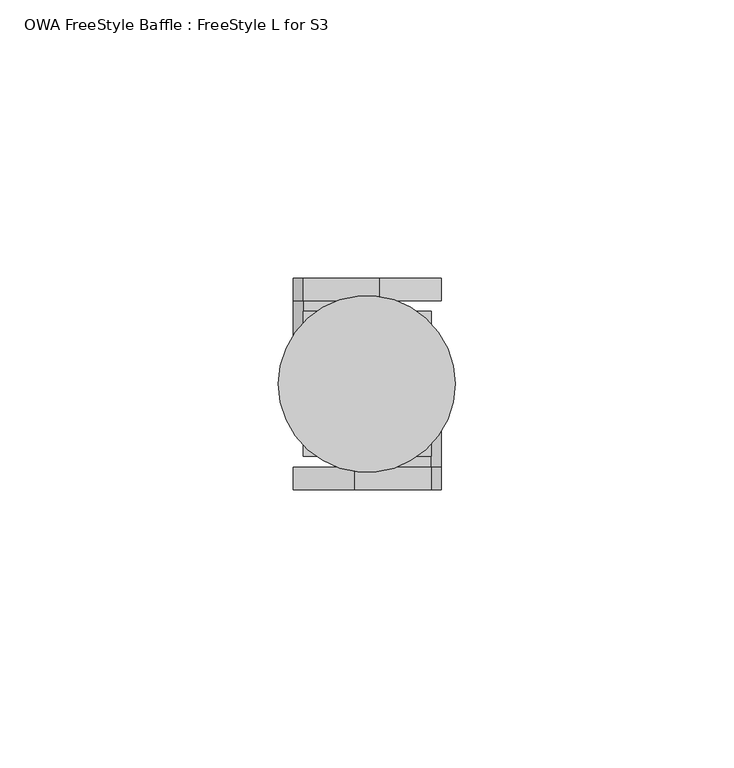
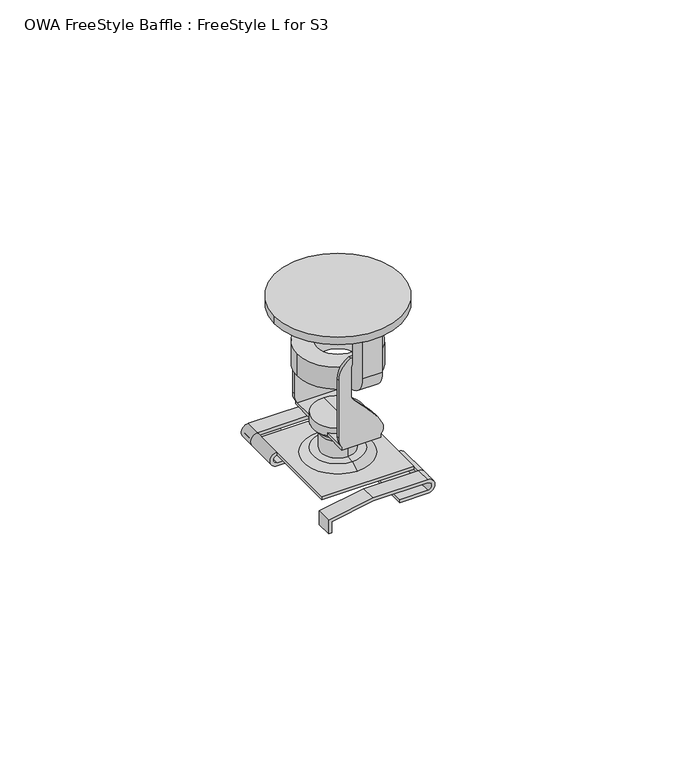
"""IFC4 building model written with IfcOpenShell, lengths in millimetres: proxy geometry, OWA FreeStyle Baffle : FreeStyle L for S3."""

from ifc_helpers import new_model, si_unit, point, frame, frame_2d, origin, place, context, project, spatial, polyline, circle_curve, trimmed, segment, composite_curve, outline, extrude, source, transform, mapped, element, save
from ifc_brep_helpers import plane_surface, cylinder_surface, revolved_surface, advanced_brep


def owa_freestyle_baffle_freestyle_l_for_s3_43a2b04f(model_context):
    return source(origin(), model_context, "Body", "SolidModel", [
        advanced_brep(
        [(-751.5, 10.0577889, 28.4358156), (-748.5937425, 10.0577889, 33.2858156), (-743.5, 10.0577889, 33.2858156), (-743.5, 10.0577889, 27.4015303), (-743.5, 10.0577889, 31.007432), (-748.5, 10.0577889, 31.007432), (-748.5, 10.0577889, 23.6176887), (-747.77757, 10.0577889, 21.8597795), (-743.5468103, 10.0577889, 17.5817021), (-740.5677822, 10.0577889, 13.1149322), (-741.0563894, 10.0577889, 10.5898642), (-741.0563894, 10.0577889, 9.7898642), (-750.768039, 10.0577889, 9.7898642), (-750.768039, 10.0577889, 10.5898642), (-751.5, 10.0577889, 13.1149322), (-751.5, 9.2577889, 28.4358156), (-751.5, 9.2577889, 13.1149322), (-750.768039, 9.2577889, 10.5898642), (-741.0563894, 9.2577889, 10.5898642), (-740.5677822, 9.2577889, 13.1149322), (-743.5468103, 9.2577889, 17.5817021), (-747.77757, 9.2577889, 21.8597795), (-748.5, 9.2577889, 23.6176887), (-748.5, 9.2577889, 31.007432), (-743.5, 9.2577889, 31.007432), (-743.5, 9.2577889, 27.4015303), (-743.5, 9.2577889, 33.2858156), (-748.5937425, 9.2577889, 33.2858156), (-750.768039, 3.9188497, 10.5898642), (-746.0, 6.1718376, 10.5898642), (-741.0563894, 3.6949009, 10.5898642), (-750.768039, -9.2577889, 10.5898642), (-741.0563894, -9.2577889, 10.5898642), (-741.0563894, -3.6949009, 10.5898642), (-746.0, -6.1718376, 10.5898642), (-750.768039, -3.9188497, 10.5898642), (-741.0563894, -10.0577889, 9.7898642), (-750.768039, -10.0577889, 9.7898642), (-750.768039, -3.9188497, 9.7898642), (-750.768039, 3.9188497, 9.7898642), (-741.0563894, 3.6949009, 9.7898642), (-741.0563894, -3.6949009, 9.7898642), (-746.0, -5.0073658, 9.7898642), (-746.0, 5.0073658, 9.7898642), (-741.0563894, -10.0577889, 10.5898642), (-750.768039, -10.0577889, 10.5898642), (-740.5677822, -10.0577889, 13.1149322), (-743.5468103, -10.0577889, 17.5817021), (-747.77757, -10.0577889, 21.8597795), (-748.5, -10.0577889, 23.6176887), (-748.5, -10.0577889, 31.007432), (-743.5, -10.0577889, 31.007432), (-743.5, -10.0577889, 27.4015303), (-743.5, -10.0577889, 33.2858156), (-748.5937425, -10.0577889, 33.2858156), (-751.5, -10.0577889, 28.4358156), (-751.5, -10.0577889, 13.1149322), (-751.5, -9.2577889, 28.4358156), (-748.5937425, -9.2577889, 33.2858156), (-743.5, -9.2577889, 33.2858156), (-743.5, -9.2577889, 27.4015303), (-743.5, -9.2577889, 31.007432), (-748.5, -9.2577889, 31.007432), (-748.5, -9.2577889, 23.6176887), (-747.77757, -9.2577889, 21.8597795), (-743.5468103, -9.2577889, 17.5817021), (-740.5677822, -9.2577889, 13.1149322), (-751.5, -9.2577889, 13.1149322), (-746.0, 0.0, 1.5898642), (-746.0, -8.4415003, 1.5898642), (-746.0, 8.4415003, 1.5898642), (-746.0, -6.3209107, 2.7955065), (-746.0, 6.3209107, 2.7955065), (-746.0, -4.2468376, 2.7955065), (-746.0, 4.2468376, 2.7955065), (-746.0, -4.2468376, 7.2398642), (-746.0, 4.2468376, 7.2398642), (-746.0, -5.0073658, 8.5775481), (-746.0, 5.0073658, 8.5775481), (-746.0, -6.1718376, 12.0898642), (-746.0, 6.1718376, 12.0898642), (-746.0, 0.0, 12.0898642)],
        [
            (0, 1, circle_curve(frame((-746.0, 10.0577889, 28.4358156), z_axis=(0.0, 1.0, 0.0), x_axis=(0.0, 0.0, 1.0)), 5.5)),
            (1, 2),
            (2, 3, circle_curve(frame((-744.5205733, 10.0577889, 30.343673), z_axis=(0.0, 1.0, 0.0), x_axis=(0.0, 0.0, 1.0)), 3.1141248)),
            (3, 4),
            (4, 5),
            (5, 6),
            (6, 7, circle_curve(frame((-746.0, 10.0577889, 23.6176887), z_axis=(0.0, -1.0, 0.0), x_axis=(0.0, 0.0, 1.0)), 2.5)),
            (7, 8),
            (8, 9, circle_curve(frame((-753.5676337, 10.0577889, 7.6717141), z_axis=(0.0, 1.0, 0.0), x_axis=(0.0, 0.0, 1.0)), 14.0934298)),
            (9, 10, circle_curve(frame((-742.7072336, 10.0577889, 12.2191142), z_axis=(0.0, 1.0, 0.0), x_axis=(0.0, 0.0, 1.0)), 2.3194271)),
            (10, 11),
            (11, 12),
            (12, 13),
            (13, 14, circle_curve(frame((-746.778618, 10.0577889, 13.1149322), z_axis=(0.0, 1.0, 0.0), x_axis=(0.0, 0.0, 1.0)), 4.721382)),
            (14, 0),
            (15, 16),
            (16, 17, circle_curve(frame((-746.778618, 9.2577889, 13.1149322), z_axis=(0.0, -1.0, 0.0), x_axis=(0.0, 0.0, 1.0)), 4.721382)),
            (17, 18),
            (18, 19, circle_curve(frame((-742.7072336, 9.2577889, 12.2191142), z_axis=(0.0, -1.0, 0.0), x_axis=(0.0, 0.0, 1.0)), 2.3194271)),
            (19, 20, circle_curve(frame((-753.5676337, 9.2577889, 7.6717141), z_axis=(0.0, -1.0, 0.0), x_axis=(0.0, 0.0, 1.0)), 14.0934298)),
            (20, 21),
            (21, 22, circle_curve(frame((-746.0, 9.2577889, 23.6176887), z_axis=(0.0, 1.0, 0.0), x_axis=(0.0, 0.0, 1.0)), 2.5)),
            (22, 23),
            (23, 24),
            (24, 25),
            (25, 26, circle_curve(frame((-744.5205733, 9.2577889, 30.343673), z_axis=(0.0, -1.0, 0.0), x_axis=(0.0, 0.0, 1.0)), 3.1141248)),
            (26, 27),
            (27, 15, circle_curve(frame((-746.0, 9.2577889, 28.4358156), z_axis=(0.0, -1.0, 0.0), x_axis=(0.0, 0.0, 1.0)), 5.5)),
            (0, 15),
            (27, 1),
            (26, 2),
            (25, 3),
            (24, 4),
            (23, 5),
            (7, 21),
            (20, 8),
            (19, 9),
            (18, 10),
            (13, 17),
            (16, 14),
            (6, 22),
            (17, 28),
            (28, 29, circle_curve(frame((-746.0, 0.0, 10.5898642), z_axis=(0.0, 0.0, -1.0), x_axis=(0.0, -1.0, 0.0)), 6.1718376)),
            (29, 30, circle_curve(frame((-746.0, 0.0, 10.5898642), z_axis=(0.0, 0.0, -1.0), x_axis=(0.0, -1.0, 0.0)), 6.1718376)),
            (30, 18),
            (31, 32),
            (32, 33),
            (33, 34, circle_curve(frame((-746.0, 0.0, 10.5898642), z_axis=(0.0, 0.0, -1.0), x_axis=(0.0, -1.0, 0.0)), 6.1718376)),
            (34, 35, circle_curve(frame((-746.0, 0.0, 10.5898642), z_axis=(0.0, 0.0, -1.0), x_axis=(0.0, -1.0, 0.0)), 6.1718376)),
            (35, 31),
            (36, 37),
            (37, 38),
            (38, 39, circle_curve(frame((-746.0, 0.0, 9.7898642), z_axis=(0.0, 0.0, -1.0), x_axis=(0.0, -1.0, 0.0)), 6.1718376)),
            (39, 12),
            (11, 40),
            (40, 41, circle_curve(frame((-746.0, 0.0, 9.7898642), z_axis=(0.0, 0.0, -1.0), x_axis=(0.0, -1.0, 0.0)), 6.1718376)),
            (41, 36),
            (42, 43, circle_curve(frame((-746.0, 0.0, 9.7898642), z_axis=(0.0, 0.0, 1.0), x_axis=(0.0, -1.0, 0.0)), 5.0073658)),
            (43, 42, circle_curve(frame((-746.0, 0.0, 9.7898642), z_axis=(0.0, 0.0, 1.0), x_axis=(0.0, -1.0, 0.0)), 5.0073658)),
            (30, 40),
            (44, 36),
            (41, 33),
            (32, 44),
            (39, 28),
            (37, 45),
            (45, 31),
            (35, 38),
            (44, 46, circle_curve(frame((-742.7072336, -10.0577889, 12.2191142), z_axis=(0.0, -1.0, 0.0), x_axis=(0.0, 0.0, 1.0)), 2.3194271)),
            (46, 47, circle_curve(frame((-753.5676337, -10.0577889, 7.6717141), z_axis=(0.0, -1.0, 0.0), x_axis=(0.0, 0.0, 1.0)), 14.0934298)),
            (47, 48),
            (48, 49, circle_curve(frame((-746.0, -10.0577889, 23.6176887), z_axis=(0.0, 1.0, 0.0), x_axis=(0.0, 0.0, 1.0)), 2.5)),
            (49, 50),
            (50, 51),
            (51, 52),
            (52, 53, circle_curve(frame((-744.5205733, -10.0577889, 30.343673), z_axis=(0.0, -1.0, 0.0), x_axis=(0.0, 0.0, 1.0)), 3.1141248)),
            (53, 54),
            (54, 55, circle_curve(frame((-746.0, -10.0577889, 28.4358156), z_axis=(0.0, -1.0, 0.0), x_axis=(0.0, 0.0, 1.0)), 5.5)),
            (55, 56),
            (56, 45, circle_curve(frame((-746.778618, -10.0577889, 13.1149322), z_axis=(0.0, -1.0, 0.0), x_axis=(0.0, 0.0, 1.0)), 4.721382)),
            (57, 58, circle_curve(frame((-746.0, -9.2577889, 28.4358156), z_axis=(0.0, 1.0, 0.0), x_axis=(0.0, 0.0, 1.0)), 5.5)),
            (58, 59),
            (59, 60, circle_curve(frame((-744.5205733, -9.2577889, 30.343673), z_axis=(0.0, 1.0, 0.0), x_axis=(0.0, 0.0, 1.0)), 3.1141248)),
            (60, 61),
            (61, 62),
            (62, 63),
            (63, 64, circle_curve(frame((-746.0, -9.2577889, 23.6176887), z_axis=(0.0, -1.0, 0.0), x_axis=(0.0, 0.0, 1.0)), 2.5)),
            (64, 65),
            (65, 66, circle_curve(frame((-753.5676337, -9.2577889, 7.6717141), z_axis=(0.0, 1.0, 0.0), x_axis=(0.0, 0.0, 1.0)), 14.0934298)),
            (66, 32, circle_curve(frame((-742.7072336, -9.2577889, 12.2191142), z_axis=(0.0, 1.0, 0.0), x_axis=(0.0, 0.0, 1.0)), 2.3194271)),
            (31, 67, circle_curve(frame((-746.778618, -9.2577889, 13.1149322), z_axis=(0.0, 1.0, 0.0), x_axis=(0.0, 0.0, 1.0)), 4.721382)),
            (67, 57),
            (54, 58),
            (57, 55),
            (53, 59),
            (52, 60),
            (51, 61),
            (50, 62),
            (47, 65),
            (64, 48),
            (46, 66),
            (56, 67),
            (63, 49),
            (68, 69),
            (69, 70, circle_curve(frame((-746.0, 0.0, 1.5898642), z_axis=(0.0, 0.0, -1.0), x_axis=(0.0, -1.0, 0.0)), 8.4415003)),
            (70, 68),
            (70, 69, circle_curve(frame((-746.0, 0.0, 1.5898642), z_axis=(0.0, 0.0, -1.0), x_axis=(0.0, -1.0, 0.0)), 8.4415003)),
            (69, 71),
            (71, 72, circle_curve(frame((-746.0, 0.0, 2.7955065), z_axis=(0.0, 0.0, -1.0), x_axis=(0.0, -1.0, 0.0)), 6.3209107)),
            (72, 70),
            (72, 71, circle_curve(frame((-746.0, 0.0, 2.7955065), z_axis=(0.0, 0.0, -1.0), x_axis=(0.0, -1.0, 0.0)), 6.3209107)),
            (71, 73),
            (73, 74, circle_curve(frame((-746.0, 0.0, 2.7955065), z_axis=(0.0, 0.0, -1.0), x_axis=(0.0, -1.0, 0.0)), 4.2468376)),
            (74, 72),
            (74, 73, circle_curve(frame((-746.0, 0.0, 2.7955065), z_axis=(0.0, 0.0, -1.0), x_axis=(0.0, -1.0, 0.0)), 4.2468376)),
            (73, 75),
            (75, 76, circle_curve(frame((-746.0, 0.0, 7.2398642), z_axis=(0.0, 0.0, -1.0), x_axis=(0.0, -1.0, 0.0)), 4.2468376)),
            (76, 74),
            (76, 75, circle_curve(frame((-746.0, 0.0, 7.2398642), z_axis=(0.0, 0.0, -1.0), x_axis=(0.0, -1.0, 0.0)), 4.2468376)),
            (75, 77),
            (77, 78, circle_curve(frame((-746.0, 0.0, 8.5775481), z_axis=(0.0, 0.0, -1.0), x_axis=(0.0, -1.0, 0.0)), 5.0073658)),
            (78, 76),
            (78, 77, circle_curve(frame((-746.0, 0.0, 8.5775481), z_axis=(0.0, 0.0, -1.0), x_axis=(0.0, -1.0, 0.0)), 5.0073658)),
            (77, 42),
            (43, 78),
            (79, 80, circle_curve(frame((-746.0, 0.0, 12.0898642), z_axis=(0.0, 0.0, -1.0), x_axis=(0.0, -1.0, 0.0)), 6.1718376)),
            (80, 29),
            (34, 79),
            (80, 79, circle_curve(frame((-746.0, 0.0, 12.0898642), z_axis=(0.0, 0.0, -1.0), x_axis=(0.0, -1.0, 0.0)), 6.1718376)),
            (79, 81),
            (81, 80),
        ],
        [
            plane_surface(frame((-751.5, 10.0577889, 13.1149322), z_axis=(0.0, 1.0, 0.0), x_axis=(0.0, 0.0, 1.0))),
            plane_surface(frame((-751.5, 9.2577889, 13.1149322), z_axis=(0.0, -1.0, 0.0), x_axis=(0.0, 0.0, -1.0))),
            cylinder_surface(frame((-746.0, 10.0577889, 28.4358156), z_axis=(0.0, -1.0, 0.0), x_axis=(0.0, 0.0, 1.0)), 5.5),
            plane_surface(frame((-743.5, 9.2577889, 33.2858156), z_axis=(0.0, 0.0, 1.0), x_axis=(0.0, 1.0, 0.0))),
            cylinder_surface(frame((-744.5205733, 10.0577889, 30.343673), z_axis=(0.0, -1.0, 0.0), x_axis=(0.0, 0.0, 1.0)), 3.1141248),
            plane_surface(frame((-743.5, 9.2577889, 31.007432), z_axis=(-1.0, 0.0, 0.0), x_axis=(0.0, 1.0, 0.0))),
            plane_surface(frame((-748.5, 9.2577889, 31.007432), z_axis=(0.0, 0.0, -1.0), x_axis=(0.0, 1.0, 0.0))),
            plane_surface(frame((-743.5468103, 9.2577889, 17.5817021), z_axis=(0.7110280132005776, 0.0, 0.7031636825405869), x_axis=(0.0, 1.0, 0.0))),
            cylinder_surface(frame((-753.5676337, 10.0577889, 7.6717141), z_axis=(0.0, -1.0, 0.0), x_axis=(0.0, 0.0, 1.0)), 14.0934298),
            cylinder_surface(frame((-742.7072336, 10.0577889, 12.2191142), z_axis=(0.0, -1.0, 0.0), x_axis=(0.0, 0.0, 1.0)), 2.3194271),
            cylinder_surface(frame((-746.778618, 10.0577889, 13.1149322), z_axis=(0.0, -1.0, 0.0), x_axis=(0.0, 0.0, 1.0)), 4.721382),
            plane_surface(frame((-751.5, 9.2577889, 28.4358156), z_axis=(-1.0, 0.0, 0.0), x_axis=(0.0, 1.0, 0.0))),
            revolved_surface(polyline([(-746.0, 10.0577889, 26.1176887), (-746.0, 9.2577889, 26.1176887)]), (-746.0, 10.0577889, 23.6176887), (0.0, 1.0, 0.0)),
            plane_surface(frame((-748.5, 9.2577889, 23.6176887), z_axis=(1.0, 0.0, 0.0), x_axis=(0.0, 1.0, 0.0))),
            plane_surface(frame((-751.5, -10.0577889, 10.5898642), z_axis=(0.0, 0.0, 1.0), x_axis=(1.0, 0.0, 0.0))),
            plane_surface(frame((-751.5, -10.0577889, 9.7898642), z_axis=(0.0, 0.0, -1.0), x_axis=(-1.0, 0.0, 0.0))),
            plane_surface(frame((-741.0563894, 10.0577889, 9.7898642), z_axis=(1.0, 0.0, 0.0), x_axis=(0.0, 0.0, 1.0))),
            plane_surface(frame((-750.768039, -10.0577889, 9.7898642), z_axis=(-1.0, 0.0, 0.0), x_axis=(0.0, 0.0, 1.0))),
            plane_surface(frame((-741.0563894, -10.0577889, 9.7898642), z_axis=(0.0, -1.0, 0.0), x_axis=(0.0, 0.0, 1.0))),
            plane_surface(frame((-746.0, -9.2577889, 33.9358156), z_axis=(0.0, 1.0, 0.0), x_axis=(1.0, 0.0, 0.0))),
            cylinder_surface(frame((-746.0, -10.0577889, 28.4358156), z_axis=(0.0, 1.0, 0.0), x_axis=(0.0, 0.0, 1.0)), 5.5),
            plane_surface(frame((-748.5937425, -9.2577889, 33.2858156), z_axis=(0.0, 0.0, 1.0), x_axis=(0.0, -1.0, 0.0))),
            cylinder_surface(frame((-744.5205733, -10.0577889, 30.343673), z_axis=(0.0, 1.0, 0.0), x_axis=(0.0, 0.0, 1.0)), 3.1141248),
            plane_surface(frame((-743.5, -9.2577889, 27.4015303), z_axis=(-1.0, 0.0, 0.0), x_axis=(0.0, -1.0, 0.0))),
            plane_surface(frame((-743.5, -9.2577889, 31.007432), z_axis=(0.0, 0.0, -1.0), x_axis=(0.0, -1.0, 0.0))),
            plane_surface(frame((-747.77757, -9.2577889, 21.8597795), z_axis=(0.7110280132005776, 0.0, 0.7031636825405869), x_axis=(0.0, -1.0, 0.0))),
            cylinder_surface(frame((-753.5676337, -10.0577889, 7.6717141), z_axis=(0.0, 1.0, 0.0), x_axis=(0.0, 0.0, 1.0)), 14.0934298),
            cylinder_surface(frame((-742.7072336, -10.0577889, 12.2191142), z_axis=(0.0, 1.0, 0.0), x_axis=(0.0, 0.0, 1.0)), 2.3194271),
            cylinder_surface(frame((-746.778618, -10.0577889, 13.1149322), z_axis=(0.0, 1.0, 0.0), x_axis=(0.0, 0.0, 1.0)), 4.721382),
            plane_surface(frame((-751.5, -9.2577889, 13.1149322), z_axis=(-1.0, 0.0, 0.0), x_axis=(0.0, -1.0, 0.0))),
            revolved_surface(polyline([(-746.0, -10.0577889, 26.1176887), (-746.0, -9.2577889, 26.1176887)]), (-746.0, -10.0577889, 23.6176887), (0.0, -1.0, 0.0)),
            plane_surface(frame((-748.5, -9.2577889, 31.007432), z_axis=(1.0, 0.0, 0.0), x_axis=(0.0, -1.0, 0.0))),
            plane_surface(frame((-746.0, 0.0, 1.5898642), z_axis=(0.0, 0.0, -1.0), x_axis=(0.0, -1.0, 0.0))),
            revolved_surface(polyline([(-746.0, -6.3209107, 2.7955065), (-746.0, -8.4415003, 1.5898642)]), (-746.0, 0.0, -2.0962775), (0.0, 0.0, -1.0)),
            plane_surface(frame((-746.0, 0.0, 2.7955065), z_axis=(0.0, 0.0, 1.0), x_axis=(0.0, -1.0, 0.0))),
            cylinder_surface(frame((-746.0, 0.0, -2.0962775), z_axis=(0.0, 0.0, -1.0), x_axis=(0.0, -1.0, 0.0)), 4.2468376),
            revolved_surface(polyline([(-746.0, -5.0073658, 8.5775481), (-746.0, -4.2468376, 7.2398642)]), (-746.0, 0.0, -2.0962775), (0.0, 0.0, -1.0)),
            cylinder_surface(frame((-746.0, 0.0, -2.0962775), z_axis=(0.0, 0.0, -1.0), x_axis=(0.0, -1.0, 0.0)), 5.0073658),
            cylinder_surface(frame((-746.0, 0.0, -2.0962775), z_axis=(0.0, 0.0, -1.0), x_axis=(0.0, -1.0, 0.0)), 6.1718376),
            plane_surface(frame((-746.0, 0.0, 12.0898642), z_axis=(0.0, 0.0, 1.0), x_axis=(0.0, -1.0, 0.0))),
        ],
        [
            (0, [[1, 2, 3, 4, 5, 6, 7, 8, 9, 10, 11, 12, 13, 14, 15]]),
            (1, [[16, 17, 18, 19, 20, 21, 22, 23, 24, 25, 26, 27, 28]]),
            (2, [[-1, 29, -28, 30]]),
            (3, [[-2, -30, -27, 31]]),
            (4, [[-3, -31, -26, 32]]),
            (5, [[-4, -32, -25, 33]]),
            (6, [[-5, -33, -24, 34]]),
            (7, [[-8, 35, -21, 36]]),
            (8, [[-9, -36, -20, 37]]),
            (9, [[-10, -37, -19, 38]]),
            (10, [[-14, 39, -17, 40]]),
            (11, [[-15, -40, -16, -29]]),
            (12, [[-7, 41, -22, -35]]),
            (13, [[-6, -34, -23, -41]]),
            (14, [[-18, 42, 43, 44, 45]]),
            (14, [[46, 47, 48, 49, 50]]),
            (15, [[51, 52, 53, 54, -12, 55, 56, 57], [58, 59]]),
            (16, [[-11, -38, -45, 60, -55]]),
            (16, [[61, -57, 62, -47, 63]]),
            (17, [[-13, -54, 64, -42, -39]]),
            (17, [[65, 66, -50, 67, -52]]),
            (18, [[-51, -61, 68, 69, 70, 71, 72, 73, 74, 75, 76, 77, 78, 79, -65]]),
            (19, [[80, 81, 82, 83, 84, 85, 86, 87, 88, 89, -46, 90, 91]]),
            (20, [[-77, 92, -80, 93]]),
            (21, [[-76, 94, -81, -92]]),
            (22, [[-75, 95, -82, -94]]),
            (23, [[-74, 96, -83, -95]]),
            (24, [[-73, 97, -84, -96]]),
            (25, [[-70, 98, -87, 99]]),
            (26, [[-69, 100, -88, -98]]),
            (27, [[-68, -63, -89, -100]]),
            (28, [[-79, 101, -90, -66]]),
            (29, [[-78, -93, -91, -101]]),
            (30, [[-71, -99, -86, 102]]),
            (31, [[-72, -102, -85, -97]]),
            (32, [[103, 104, 105]]),
            (32, [[-103, -105, 106]]),
            (33, [[-104, 107, 108, 109]]),
            (33, [[-106, -109, 110, -107]]),
            (34, [[-108, 111, 112, 113]]),
            (34, [[-110, -113, 114, -111]]),
            (35, [[-112, 115, 116, 117]]),
            (35, [[-114, -117, 118, -115]]),
            (36, [[-116, 119, 120, 121]]),
            (36, [[-118, -121, 122, -119]]),
            (37, [[-120, 123, -59, 124]]),
            (37, [[-122, -124, -58, -123]]),
            (38, [[125, 126, -43, -64, -53, -67, -49, 127]]),
            (38, [[128, -127, -48, -62, -56, -60, -44, -126]]),
            (39, [[-125, 129, 130]]),
            (39, [[-128, -130, -129]]),
        ],
    ),
        advanced_brep(
        [(-750.4495628, 18.9495628, -1.2101358), (-750.4495628, 18.9495628, -2.0101358), (-757.4495628, 18.9495628, -2.0101358), (-757.4495628, 18.9495628, 1.5898642), (-743.7703845, 18.9495628, 1.5898642), (-732.6490582, 18.9495628, -0.3711257), (-732.6490582, 18.9495628, -4.0091992), (-733.4490582, 18.9495628, -4.0091992), (-733.4490582, 18.9495628, -1.0424054), (-743.8403754, 18.9495628, 0.7898642), (-757.4495628, 18.9495628, 0.7898642), (-757.4495628, 18.9495628, -1.2101358), (-757.4495628, 14.9495628, 0.7898642), (-743.8403754, 14.9495628, 0.7898642), (-733.4490582, 14.9495628, -1.0424054), (-733.4490582, 14.9495628, -4.0091992), (-732.6490582, 14.9495628, -4.0091992), (-732.6490582, 14.9495628, -0.3711257), (-743.7703845, 14.9495628, 1.5898642), (-757.4495628, 14.9495628, 1.5898642), (-757.4495628, 14.9495628, -1.2101358), (-757.4495628, 6.4495628, -1.2101358), (-750.4495628, 6.4495628, -1.2101358), (-757.4495628, 14.9495628, -2.0101358), (-750.4495628, 6.4495628, -2.0101358), (-757.4495628, 6.4495628, -2.0101358), (-734.4495628, 13.0504372, 1.5898642), (-757.4495628, 13.0504372, 1.5898642), (-757.4495628, 6.4495628, 1.5898642), (-757.4495628, -12.9495628, 1.5898642), (-734.4495628, -12.9495628, 1.5898642), (-734.4495628, -6.4495628, 1.5898642), (-734.4495628, -12.9495628, 0.7898642), (-757.4495628, -12.9495628, 0.7898642), (-757.4495628, 6.4495628, 0.7898642), (-757.4495628, 13.0504372, 0.7898642), (-734.4495628, 13.0504372, 0.7898642), (-734.4495628, -6.4495628, 0.7898642), (-741.4495628, -18.9495628, -1.2101358), (-741.4495628, -18.9495628, -2.0101358), (-734.4495628, -18.9495628, -2.0101358), (-734.4495628, -18.9495628, 1.5898642), (-748.1287412, -18.9495628, 1.5898642), (-759.2500675, -18.9495628, -0.3711257), (-759.2500675, -18.9495628, -4.0091992), (-758.4500675, -18.9495628, -4.0091992), (-758.4500675, -18.9495628, -1.0424054), (-748.0587503, -18.9495628, 0.7898642), (-734.4495628, -18.9495628, 0.7898642), (-734.4495628, -18.9495628, -1.2101358), (-734.4495628, -14.9495628, 0.7898642), (-748.0587503, -14.9495628, 0.7898642), (-758.4500675, -14.9495628, -1.0424054), (-758.4500675, -14.9495628, -4.0091992), (-759.2500675, -14.9495628, -4.0091992), (-759.2500675, -14.9495628, -0.3711257), (-748.1287412, -14.9495628, 1.5898642), (-734.4495628, -14.9495628, 1.5898642), (-734.4495628, -14.9495628, -1.2101358), (-734.4495628, -6.4495628, -1.2101358), (-741.4495628, -6.4495628, -1.2101358), (-734.4495628, -14.9495628, -2.0101358), (-741.4495628, -6.4495628, -2.0101358), (-734.4495628, -6.4495628, -2.0101358)],
        [
            (0, 1),
            (1, 2),
            (2, 3, circle_curve(frame((-757.4495628, 18.9495628, -0.2101358), z_axis=(0.0, 1.0, 0.0), x_axis=(1.0, 0.0, 0.0)), 1.8)),
            (3, 4),
            (4, 5),
            (5, 6),
            (6, 7),
            (7, 8),
            (8, 9),
            (9, 10),
            (10, 11, circle_curve(frame((-757.4495628, 18.9495628, -0.2101358), z_axis=(0.0, -1.0, 0.0), x_axis=(1.0, 0.0, 0.0)), 1.0)),
            (11, 0),
            (12, 13),
            (13, 14),
            (14, 15),
            (15, 16),
            (16, 17),
            (17, 18),
            (18, 19),
            (19, 12),
            (11, 20),
            (20, 21),
            (21, 22),
            (22, 0),
            (10, 12),
            (12, 20, circle_curve(frame((-757.4495628, 14.9495628, -0.2101358), z_axis=(0.0, -1.0, 0.0), x_axis=(1.0, 0.0, 0.0)), 1.0)),
            (9, 13),
            (3, 19),
            (18, 4),
            (2, 23),
            (23, 19, circle_curve(frame((-757.4495628, 14.9495628, -0.2101358), z_axis=(0.0, 1.0, 0.0), x_axis=(1.0, 0.0, 0.0)), 1.8)),
            (1, 24),
            (24, 25),
            (25, 23),
            (22, 24),
            (8, 14),
            (7, 15),
            (6, 16),
            (5, 17),
            (26, 27),
            (27, 28),
            (28, 29),
            (29, 30),
            (30, 31),
            (31, 26),
            (32, 33),
            (33, 34),
            (34, 35),
            (35, 36),
            (36, 37),
            (37, 32),
            (26, 36),
            (35, 27),
            (33, 29),
            (28, 34),
            (32, 30),
            (31, 37),
            (21, 34, circle_curve(frame((-757.4495628, 6.4495628, -0.2101358), z_axis=(0.0, 1.0, 0.0), x_axis=(1.0, 0.0, 0.0)), 1.0)),
            (28, 25, circle_curve(frame((-757.4495628, 6.4495628, -0.2101358), z_axis=(0.0, -1.0, 0.0), x_axis=(1.0, 0.0, 0.0)), 1.8)),
            (12, 35),
            (27, 19),
            (38, 39),
            (39, 40),
            (40, 41, circle_curve(frame((-734.4495628, -18.9495628, -0.2101358), z_axis=(0.0, -1.0, 0.0), x_axis=(-1.0, 0.0, 0.0)), 1.8)),
            (41, 42),
            (42, 43),
            (43, 44),
            (44, 45),
            (45, 46),
            (46, 47),
            (47, 48),
            (48, 49, circle_curve(frame((-734.4495628, -18.9495628, -0.2101358), z_axis=(0.0, 1.0, 0.0), x_axis=(-1.0, 0.0, 0.0)), 1.0)),
            (49, 38),
            (50, 51),
            (51, 52),
            (52, 53),
            (53, 54),
            (54, 55),
            (55, 56),
            (56, 57),
            (57, 50),
            (49, 58),
            (58, 59),
            (59, 60),
            (60, 38),
            (48, 50),
            (50, 58, circle_curve(frame((-734.4495628, -14.9495628, -0.2101358), z_axis=(0.0, 1.0, 0.0), x_axis=(-1.0, 0.0, 0.0)), 1.0)),
            (47, 51),
            (41, 57),
            (56, 42),
            (40, 61),
            (61, 57, circle_curve(frame((-734.4495628, -14.9495628, -0.2101358), z_axis=(0.0, -1.0, 0.0), x_axis=(-1.0, 0.0, 0.0)), 1.8)),
            (39, 62),
            (62, 63),
            (63, 61),
            (60, 62),
            (46, 52),
            (45, 53),
            (44, 54),
            (43, 55),
            (59, 37, circle_curve(frame((-734.4495628, -6.4495628, -0.2101358), z_axis=(0.0, -1.0, 0.0), x_axis=(-1.0, 0.0, 0.0)), 1.0)),
            (31, 63, circle_curve(frame((-734.4495628, -6.4495628, -0.2101358), z_axis=(0.0, 1.0, 0.0), x_axis=(-1.0, 0.0, 0.0)), 1.8)),
            (50, 32),
            (30, 57),
        ],
        [
            plane_surface(frame((-750.4495628, 18.9495628, -1.2101358), z_axis=(0.0, 1.0, 0.0), x_axis=(0.0, 0.0, -1.0))),
            plane_surface(frame((-750.4495628, 14.9495628, -1.2101358), z_axis=(0.0, -1.0, 0.0), x_axis=(0.0, 0.0, 1.0))),
            plane_surface(frame((-757.4495628, 18.9495628, -1.2101358), z_axis=(0.0, 0.0, 1.0), x_axis=(0.0, -1.0, 0.0))),
            revolved_surface(polyline([(-756.4495628, 14.9495628, -0.2101358), (-756.4495628, 18.9495628, -0.2101358)]), (-757.4495628, 14.9495628, -0.2101358), (0.0, -1.0, 0.0)),
            plane_surface(frame((-743.8403754, 18.9495628, 0.7898642), z_axis=(0.0, 0.0, -1.0), x_axis=(0.0, -1.0, 0.0))),
            plane_surface(frame((-757.4495628, 18.9495628, 1.5898642), z_axis=(0.0, 0.0, 1.0), x_axis=(0.0, -1.0, 0.0))),
            cylinder_surface(frame((-757.4495628, 14.9495628, -0.2101358), z_axis=(0.0, 1.0, 0.0), x_axis=(1.0, 0.0, 0.0)), 1.8),
            plane_surface(frame((-750.4495628, 18.9495628, -2.0101358), z_axis=(0.0, 0.0, -1.0), x_axis=(0.0, -1.0, 0.0))),
            plane_surface(frame((-750.4495628, 18.9495628, -1.2101358), z_axis=(1.0, 0.0, 0.0), x_axis=(0.0, -1.0, 0.0))),
            plane_surface(frame((-733.4490582, 18.9495628, -1.0424054), z_axis=(-0.17364817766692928, 0.0, -0.9848077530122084), x_axis=(0.0, -1.0, 0.0))),
            plane_surface(frame((-733.4490582, 18.9495628, -4.0091992), z_axis=(-1.0, 0.0, 0.0), x_axis=(0.0, -1.0, 0.0))),
            plane_surface(frame((-732.6490582, 18.9495628, -4.0091992), z_axis=(0.0, 0.0, -1.0), x_axis=(0.0, -1.0, 0.0))),
            plane_surface(frame((-732.6490582, 18.9495628, -0.3711257), z_axis=(1.0, 0.0, 0.0), x_axis=(0.0, -1.0, 0.0))),
            plane_surface(frame((-743.7703845, 18.9495628, 1.5898642), z_axis=(0.17364817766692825, 0.0, 0.9848077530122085), x_axis=(0.0, -1.0, 0.0))),
            plane_surface(frame((-734.4495628, 11.0504372, 1.5898642), z_axis=(0.0, 0.0, 1.0), x_axis=(0.0, 1.0, 0.0))),
            plane_surface(frame((-734.4495628, 11.0504372, 0.7898642), z_axis=(0.0, 0.0, -1.0), x_axis=(0.0, -1.0, 0.0))),
            plane_surface(frame((-757.4495628, 13.0504372, 0.7898642), z_axis=(0.0, 1.0, 0.0), x_axis=(0.0, 0.0, 1.0))),
            plane_surface(frame((-757.4495628, -12.9495628, 0.7898642), z_axis=(-1.0, 0.0, 0.0), x_axis=(0.0, 0.0, 1.0))),
            plane_surface(frame((-734.4495628, -12.9495628, 0.7898642), z_axis=(0.0, -1.0, 0.0), x_axis=(0.0, 0.0, 1.0))),
            plane_surface(frame((-734.4495628, 13.0504372, 0.7898642), z_axis=(1.0, 0.0, 0.0), x_axis=(0.0, 0.0, 1.0))),
            plane_surface(frame((-750.4495628, 6.4495628, -1.2101358), z_axis=(0.0, -1.0, 0.0), x_axis=(0.0, 0.0, 1.0))),
            revolved_surface(polyline([(-756.4495628, 6.4495628, -0.2101358), (-756.4495628, 14.949562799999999, -0.2101358)]), (-757.4495628, 6.4495628, -0.2101358), (0.0, -1.0, 0.0)),
            cylinder_surface(frame((-757.4495628, 6.4495628, -0.2101358), z_axis=(0.0, 1.0, 0.0), x_axis=(1.0, 0.0, 0.0)), 1.8),
            plane_surface(frame((-757.4495628, 14.9495628, 1.5898642), z_axis=(1.0, 0.0, 0.0), x_axis=(0.0, -1.0, 0.0))),
            plane_surface(frame((-741.4495628, -18.9495628, -1.2101358), z_axis=(0.0, -1.0, 0.0), x_axis=(0.0, 0.0, -1.0))),
            plane_surface(frame((-741.4495628, -14.9495628, -1.2101358), z_axis=(0.0, 1.0, 0.0), x_axis=(0.0, 0.0, 1.0))),
            plane_surface(frame((-734.4495628, -18.9495628, -1.2101358), z_axis=(0.0, 0.0, 1.0), x_axis=(0.0, 1.0, 0.0))),
            revolved_surface(polyline([(-735.4495628, -14.9495628, -0.2101358), (-735.4495628, -18.9495628, -0.2101358)]), (-734.4495628, -14.9495628, -0.2101358), (0.0, 1.0, 0.0)),
            plane_surface(frame((-748.0587503, -18.9495628, 0.7898642), z_axis=(0.0, 0.0, -1.0), x_axis=(0.0, 1.0, 0.0))),
            plane_surface(frame((-734.4495628, -18.9495628, 1.5898642), z_axis=(0.0, 0.0, 1.0), x_axis=(0.0, 1.0, 0.0))),
            cylinder_surface(frame((-734.4495628, -14.9495628, -0.2101358), z_axis=(0.0, -1.0, 0.0), x_axis=(-1.0, 0.0, 0.0)), 1.8),
            plane_surface(frame((-741.4495628, -18.9495628, -2.0101358), z_axis=(0.0, 0.0, -1.0), x_axis=(0.0, 1.0, 0.0))),
            plane_surface(frame((-741.4495628, -18.9495628, -1.2101358), z_axis=(-1.0, 0.0, 0.0), x_axis=(0.0, 1.0, 0.0))),
            plane_surface(frame((-758.4500675, -18.9495628, -1.0424054), z_axis=(0.17364817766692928, 0.0, -0.9848077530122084), x_axis=(0.0, 1.0, 0.0))),
            plane_surface(frame((-758.4500675, -18.9495628, -4.0091992), z_axis=(1.0, 0.0, 0.0), x_axis=(0.0, 1.0, 0.0))),
            plane_surface(frame((-759.2500675, -18.9495628, -4.0091992), z_axis=(0.0, 0.0, -1.0), x_axis=(0.0, 1.0, 0.0))),
            plane_surface(frame((-759.2500675, -18.9495628, -0.3711257), z_axis=(-1.0, 0.0, 0.0), x_axis=(0.0, 1.0, 0.0))),
            plane_surface(frame((-748.1287412, -18.9495628, 1.5898642), z_axis=(-0.17364817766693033, 0.0, 0.9848077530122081), x_axis=(0.0, 1.0, 0.0))),
            plane_surface(frame((-741.4495628, -6.4495628, -1.2101358), z_axis=(0.0, 1.0, 0.0), x_axis=(0.0, 0.0, 1.0))),
            revolved_surface(polyline([(-735.4495628, -6.4495628, -0.2101358), (-735.4495628, -14.949562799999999, -0.2101358)]), (-734.4495628, -6.4495628, -0.2101358), (0.0, 1.0, 0.0)),
            cylinder_surface(frame((-734.4495628, -6.4495628, -0.2101358), z_axis=(0.0, -1.0, 0.0), x_axis=(-1.0, 0.0, 0.0)), 1.8),
            plane_surface(frame((-734.4495628, -14.9495628, 1.5898642), z_axis=(-1.0, 0.0, 0.0), x_axis=(0.0, 1.0, 0.0))),
        ],
        [
            (0, [[1, 2, 3, 4, 5, 6, 7, 8, 9, 10, 11, 12]]),
            (1, [[13, 14, 15, 16, 17, 18, 19, 20]]),
            (2, [[-12, 21, 22, 23, 24]]),
            (3, [[-11, 25, 26, -21]]),
            (4, [[-10, 27, -13, -25]]),
            (5, [[-4, 28, -19, 29]]),
            (6, [[-3, 30, 31, -28]]),
            (7, [[-2, 32, 33, 34, -30]]),
            (8, [[-1, -24, 35, -32]]),
            (9, [[-9, 36, -14, -27]]),
            (10, [[-8, 37, -15, -36]]),
            (11, [[-7, 38, -16, -37]]),
            (12, [[-6, 39, -17, -38]]),
            (13, [[-5, -29, -18, -39]]),
            (14, [[40, 41, 42, 43, 44, 45]]),
            (15, [[46, 47, 48, 49, 50, 51]]),
            (16, [[-40, 52, -49, 53]]),
            (17, [[54, -42, 55, -47]]),
            (18, [[-43, -54, -46, 56]]),
            (19, [[-52, -45, 57, -50]]),
            (20, [[-23, 58, -55, 59, -33, -35]]),
            (21, [[-58, -22, -26, 60, -48]]),
            (22, [[-59, -41, 61, -31, -34]]),
            (23, [[-61, -53, -60, -20]]),
            (24, [[62, 63, 64, 65, 66, 67, 68, 69, 70, 71, 72, 73]]),
            (25, [[74, 75, 76, 77, 78, 79, 80, 81]]),
            (26, [[-73, 82, 83, 84, 85]]),
            (27, [[-72, 86, 87, -82]]),
            (28, [[-71, 88, -74, -86]]),
            (29, [[-65, 89, -80, 90]]),
            (30, [[-64, 91, 92, -89]]),
            (31, [[-63, 93, 94, 95, -91]]),
            (32, [[-93, -62, -85, 96]]),
            (33, [[-70, 97, -75, -88]]),
            (34, [[-69, 98, -76, -97]]),
            (35, [[-68, 99, -77, -98]]),
            (36, [[-67, 100, -78, -99]]),
            (37, [[-66, -90, -79, -100]]),
            (38, [[-84, 101, -57, 102, -94, -96]]),
            (39, [[-101, -83, -87, 103, -51]]),
            (40, [[-102, -44, 104, -92, -95]]),
            (41, [[-104, -56, -103, -81]]),
        ],
    ),
        extrude(outline(composite_curve([segment(trimmed(circle_curve(frame_2d((-746.0, 0.0)), 15.8660547), [point((-730.1339453, 0.0))], [point((-761.8660547, 0.0))], False, "CARTESIAN"), True, "CONTINUOUS"), segment(trimmed(circle_curve(frame_2d((-746.0, 0.0)), 15.8660547), [point((-761.8660547, 0.0))], [point((-730.1339453, 0.0))], False, "CARTESIAN"), True, "CONTINUOUS")], self_intersect=False)), frame((0.0, 0.0, 41.0), z_axis=(0.0, 0.0, 1.0), x_axis=(1.0, 0.0, 0.0)), (0.0, 0.0, 1.0), 2.0),
        extrude(outline(composite_curve([segment(trimmed(circle_curve(frame_2d((-746.0, 0.0)), 10.1641138), [point((-735.8358862, 0.0))], [point((-756.1641138, 0.0))], False, "CARTESIAN"), True, "CONTINUOUS"), segment(trimmed(circle_curve(frame_2d((-746.0, 0.0)), 10.1641138), [point((-756.1641138, 0.0))], [point((-735.8358862, 0.0))], False, "CARTESIAN"), True, "CONTINUOUS")], self_intersect=False), holes=[composite_curve([segment(trimmed(circle_curve(frame_2d((-746.0, 0.0)), 5.2), [point((-740.8, 0.0))], [point((-751.2, 0.0))], True, "CARTESIAN"), True, "CONTINUOUS"), segment(trimmed(circle_curve(frame_2d((-746.0, 0.0)), 5.2), [point((-751.2, 0.0))], [point((-740.8, 0.0))], True, "CARTESIAN"), True, "CONTINUOUS")], self_intersect=False)]), frame((0.0, 0.0, 25.2100562), z_axis=(0.0, 0.0, 1.0), x_axis=(1.0, 0.0, 0.0)), (0.0, 0.0, 1.0), 5.7973759),
        extrude(outline(composite_curve([segment(polyline([(-10.816302, 41.0), (-10.816302, 32.5083498)]), True, "CONTINUOUS"), segment(trimmed(circle_curve(frame_2d((-8.7631339, 32.5083498)), 2.0531681), [point((-10.816302, 32.5083498))], [point((-10.1641138, 31.007432))], True, "CARTESIAN"), True, "CONTINUOUS"), segment(polyline([(-10.1641138, 31.007432), (-7.362154, 31.007432), (-7.362154, 25.2100562), (-10.1641138, 25.2100562)]), True, "CONTINUOUS"), segment(trimmed(circle_curve(frame_2d((-9.2898597, 30.8560732)), 5.7133028), [point((-10.1641138, 25.2100562))], [point((-15.0031624, 30.8560732))], False, "CARTESIAN"), True, "CONTINUOUS"), segment(polyline([(-15.0031624, 30.8560732), (-15.0031624, 41.0), (-10.816302, 41.0)]), True, "CONTINUOUS")], self_intersect=False)), frame((-748.5, 0.0, 0.0), z_axis=(1.0, 0.0, 0.0), x_axis=(0.0, 1.0, 0.0)), (0.0, 0.0, 1.0), 5.0),
        extrude(outline(composite_curve([segment(polyline([(10.816302, 41.0), (15.0031624, 41.0), (15.0031624, 30.8560732)]), True, "CONTINUOUS"), segment(trimmed(circle_curve(frame_2d((9.2898597, 30.8560732)), 5.7133028), [point((15.0031624, 30.8560732))], [point((10.1641138, 25.2100562))], False, "CARTESIAN"), True, "CONTINUOUS"), segment(polyline([(10.1641138, 25.2100562), (7.362154, 25.2100562), (7.362154, 31.007432), (10.1641138, 31.007432)]), True, "CONTINUOUS"), segment(trimmed(circle_curve(frame_2d((8.7631339, 32.5083498)), 2.0531681), [point((10.1641138, 31.007432))], [point((10.816302, 32.5083498))], True, "CARTESIAN"), True, "CONTINUOUS"), segment(polyline([(10.816302, 32.5083498), (10.816302, 41.0)]), True, "CONTINUOUS")], self_intersect=False)), frame((-748.5, 0.0, 0.0), z_axis=(1.0, 0.0, 0.0), x_axis=(0.0, 1.0, 0.0)), (0.0, 0.0, 1.0), 5.0),
    ])


if __name__ == "__main__":
    model = new_model("IFC4")
    model_context = context("Model", 3, world=origin())
    ifc_project = project(units=[si_unit("LENGTHUNIT", "METRE", prefix="MILLI")], contexts=[model_context])
    site = spatial("IfcSite", under=ifc_project)
    building = spatial("IfcBuilding", under=site)
    placement = place(None, origin())
    owa_freestyle_baffle_freestyle_l_for_s3_shape = owa_freestyle_baffle_freestyle_l_for_s3_43a2b04f(model_context)
    element("IfcBuildingElementProxy", 1, Name="OWA FreeStyle Baffle : FreeStyle L for S3", ObjectType="OWA FreeStyle Baffle : FreeStyle L for S3", at=placement, inside=building, context=model_context, shape_type="MappedRepresentation", body=[
        mapped(owa_freestyle_baffle_freestyle_l_for_s3_shape, transform((0.0, 0.0, 0.0), x_axis=(1.0, 0.0, 0.0), y_axis=(0.0, 1.0, 0.0), z_axis=(0.0, 0.0, 1.0))),
    ])
    save(model, "model.ifc")
